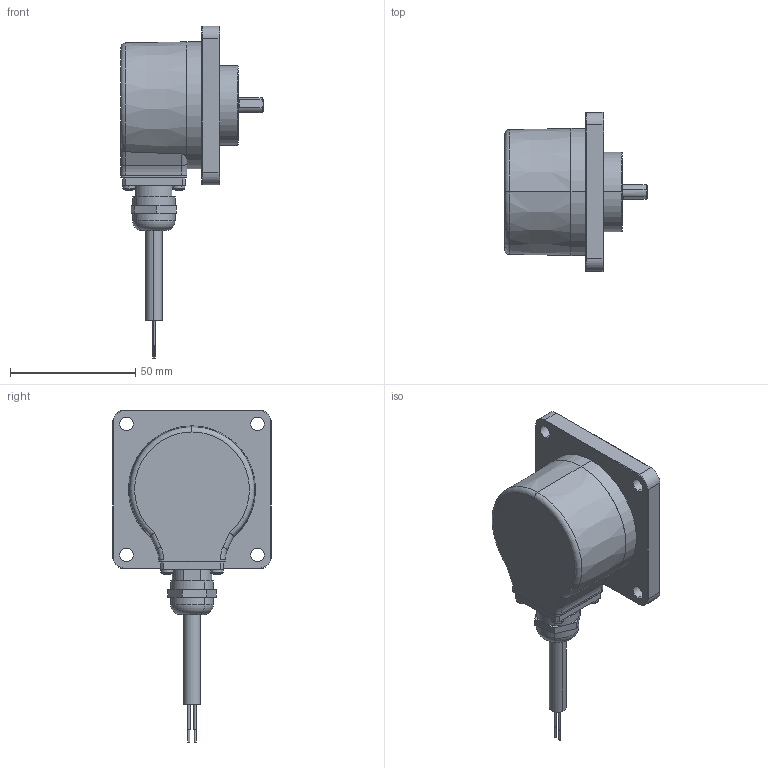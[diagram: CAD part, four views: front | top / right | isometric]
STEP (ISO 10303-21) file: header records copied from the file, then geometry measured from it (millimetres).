
FILE_DESCRIPTION (( 'STEP AP214' ), '1' );
FILE_NAME ('5000.D1X2.XXXX.STEP', '2009-01-14T09:04:33', ( 'admin' ), ( 'Fritz Kübler GmbH' ), 'SwSTEP 2.0', 'SolidWorks 2008', '' );
FILE_SCHEMA (( 'AUTOMOTIVE_DESIGN' ));
Length unit declared in the file: millimetre
Products named in the file (1): 5000.D1X2.XXXX
Bounding box: 57 x 63.5 x 132.75 mm (x, y, z)
Volume: 64968.3 mm3; surface area: 40925.4 mm2
Topology: 12 solids, 13 shells, 551 faces, 1299 edges, 789 vertices
Faces by surface type: plane 188, cylinder 167, cone 89, torus 65, sphere 32, bspline 10
Entity records: 22657 total; most frequent: CARTESIAN_POINT 3802, DIRECTION 2855, ORIENTED_EDGE 2478, EDGE_CURVE 1239, AXIS2_PLACEMENT_3D 1174, VERTEX_POINT 759, EDGE_LOOP 646, CIRCLE 632
